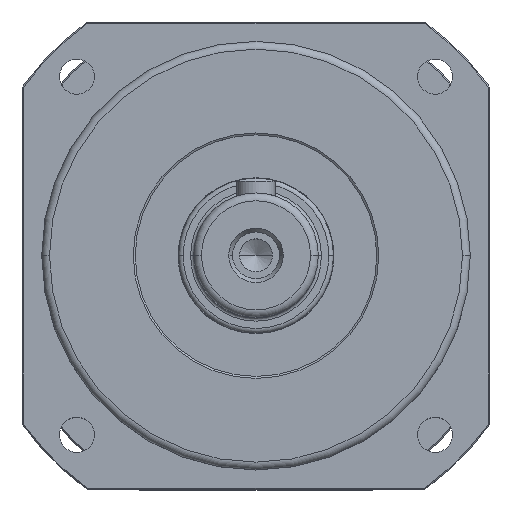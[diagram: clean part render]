
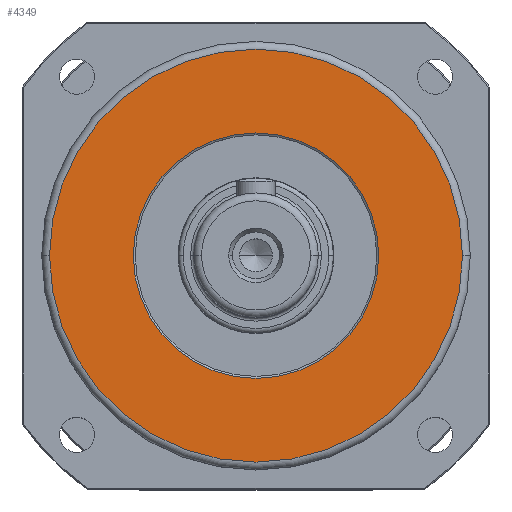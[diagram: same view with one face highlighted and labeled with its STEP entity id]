
A CAD part, top view. The second image highlights one B-rep face of the part: STEP entity #4349.
In plain terms, the highlighted planar face has unit normal (0, 0, 1).
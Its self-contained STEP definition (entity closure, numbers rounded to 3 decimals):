
#1963 = EDGE_CURVE ( 'NONE', #13837, #13849, #20131, .T. ) ;
#1967 = EDGE_CURVE ( 'NONE', #17871, #13834, #20138, .T. ) ;
#4349 = ADVANCED_FACE ( 'NONE', ( #20854, #20855 ), #7317, .T. ) ;
#5208 = CARTESIAN_POINT ( 'NONE',  ( -53., 0., 12. ) ) ;
#5213 = CARTESIAN_POINT ( 'NONE',  ( 31.5, 0., 12. ) ) ;
#5233 = CARTESIAN_POINT ( 'NONE',  ( -31.5, 0., 12. ) ) ;
#7317 = PLANE ( 'NONE',  #13208 ) ;
#7318 = CARTESIAN_POINT ( 'NONE',  ( 0., 0., 12. ) ) ;
#7319 = DIRECTION ( 'NONE',  ( 0., 0., 1. ) ) ;
#7320 = DIRECTION ( 'NONE',  ( 1., 0., 0. ) ) ;
#8757 = ORIENTED_EDGE ( 'NONE', *, *, #1963, .T. ) ;
#8759 = ORIENTED_EDGE ( 'NONE', *, *, #17970, .T. ) ;
#8760 = ORIENTED_EDGE ( 'NONE', *, *, #17971, .T. ) ;
#8761 = ORIENTED_EDGE ( 'NONE', *, *, #1967, .T. ) ;
#11345 = CIRCLE ( 'NONE', #11368, 31.5 ) ;
#11360 = CIRCLE ( 'NONE', #11370, 53. ) ;
#11368 = AXIS2_PLACEMENT_3D ( 'NONE', #22217, #22219, #22220 ) ;
#11370 = AXIS2_PLACEMENT_3D ( 'NONE', #22223, #22224, #22226 ) ;
#11454 = CARTESIAN_POINT ( 'NONE',  ( 53., 0., 12. ) ) ;
#13208 = AXIS2_PLACEMENT_3D ( 'NONE', #7318, #7319, #7320 ) ;
#13834 = VERTEX_POINT ( 'NONE', #5208 ) ;
#13837 = VERTEX_POINT ( 'NONE', #5213 ) ;
#13849 = VERTEX_POINT ( 'NONE', #5233 ) ;
#17508 = CARTESIAN_POINT ( 'NONE',  ( 0., 0., 12. ) ) ;
#17509 = DIRECTION ( 'NONE',  ( 0., 0., -1. ) ) ;
#17510 = DIRECTION ( 'NONE',  ( 1., 0., 0. ) ) ;
#17519 = CARTESIAN_POINT ( 'NONE',  ( 0., 0., 12. ) ) ;
#17520 = DIRECTION ( 'NONE',  ( 0., 0., 1. ) ) ;
#17521 = DIRECTION ( 'NONE',  ( 1., 0., 0. ) ) ;
#17871 = VERTEX_POINT ( 'NONE', #11454 ) ;
#17970 = EDGE_CURVE ( 'NONE', #13849, #13837, #11345, .T. ) ;
#17971 = EDGE_CURVE ( 'NONE', #13834, #17871, #11360, .T. ) ;
#20131 = CIRCLE ( 'NONE', #20132, 31.5 ) ;
#20132 = AXIS2_PLACEMENT_3D ( 'NONE', #17508, #17509, #17510 ) ;
#20138 = CIRCLE ( 'NONE', #20139, 53. ) ;
#20139 = AXIS2_PLACEMENT_3D ( 'NONE', #17519, #17520, #17521 ) ;
#20854 = FACE_BOUND ( 'NONE', #23943, .T. ) ;
#20855 = FACE_OUTER_BOUND ( 'NONE', #23944, .T. ) ;
#22217 = CARTESIAN_POINT ( 'NONE',  ( 0., 0., 12. ) ) ;
#22219 = DIRECTION ( 'NONE',  ( 0., 0., -1. ) ) ;
#22220 = DIRECTION ( 'NONE',  ( 1., 0., 0. ) ) ;
#22223 = CARTESIAN_POINT ( 'NONE',  ( 0., 0., 12. ) ) ;
#22224 = DIRECTION ( 'NONE',  ( 0., 0., 1. ) ) ;
#22226 = DIRECTION ( 'NONE',  ( 1., 0., 0. ) ) ;
#23943 = EDGE_LOOP ( 'NONE', ( #8757, #8759 ) ) ;
#23944 = EDGE_LOOP ( 'NONE', ( #8761, #8760 ) ) ;
